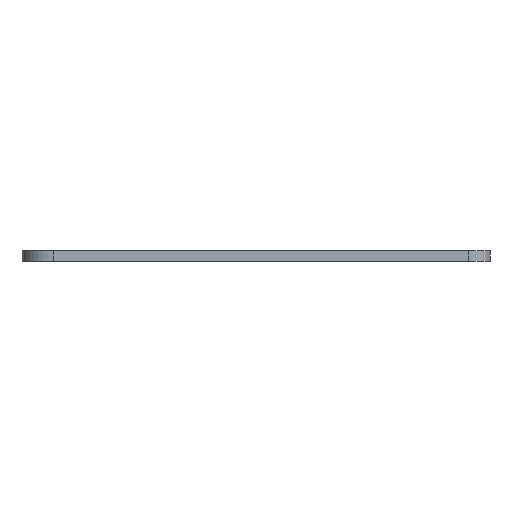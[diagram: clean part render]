
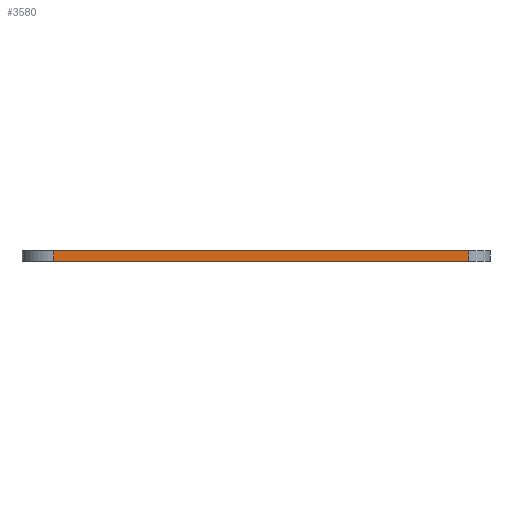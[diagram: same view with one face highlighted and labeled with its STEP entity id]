
A CAD part, front view. The second image highlights one B-rep face of the part: STEP entity #3580.
In plain terms, the highlighted planar face has unit normal (0, -1, 0).
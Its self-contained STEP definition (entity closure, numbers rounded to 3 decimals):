
#3515=CARTESIAN_POINT('',(103.425,-19.065,2.0));
#3516=VERTEX_POINT('',#3515);
#3524=CARTESIAN_POINT('',(103.425,-19.065,0.0));
#3525=VERTEX_POINT('',#3524);
#3526=CARTESIAN_POINT('',(103.425,-19.065,2.0));
#3527=DIRECTION('',(0.0,0.0,-1.0));
#3528=VECTOR('',#3527,2.0);
#3529=LINE('',#3526,#3528);
#3530=EDGE_CURVE('',#3516,#3525,#3529,.T.);
#3550=CARTESIAN_POINT('',(107.425,-19.065,0.0));
#3551=DIRECTION('',(0.0,-1.0,0.0));
#3552=DIRECTION('',(0.0,0.0,-1.0));
#3553=AXIS2_PLACEMENT_3D('',#3550,#3551,#3552);
#3554=PLANE('',#3553);
#3555=ORIENTED_EDGE('',*,*,#3530,.F.);
#3556=CARTESIAN_POINT('',(25.55,-19.065,2.0));
#3557=VERTEX_POINT('',#3556);
#3558=CARTESIAN_POINT('',(103.425,-19.065,2.0));
#3559=DIRECTION('',(-1.0,0.0,0.0));
#3560=VECTOR('',#3559,77.875);
#3561=LINE('',#3558,#3560);
#3562=EDGE_CURVE('',#3516,#3557,#3561,.T.);
#3563=ORIENTED_EDGE('',*,*,#3562,.T.);
#3564=CARTESIAN_POINT('',(25.55,-19.065,0.0));
#3565=VERTEX_POINT('',#3564);
#3566=CARTESIAN_POINT('',(25.55,-19.065,2.0));
#3567=DIRECTION('',(0.0,0.0,-1.0));
#3568=VECTOR('',#3567,2.0);
#3569=LINE('',#3566,#3568);
#3570=EDGE_CURVE('',#3557,#3565,#3569,.T.);
#3571=ORIENTED_EDGE('',*,*,#3570,.T.);
#3572=CARTESIAN_POINT('',(103.425,-19.065,0.0));
#3573=DIRECTION('',(-1.0,0.0,0.0));
#3574=VECTOR('',#3573,77.875);
#3575=LINE('',#3572,#3574);
#3576=EDGE_CURVE('',#3525,#3565,#3575,.T.);
#3577=ORIENTED_EDGE('',*,*,#3576,.F.);
#3578=EDGE_LOOP('',(#3555,#3563,#3571,#3577));
#3579=FACE_OUTER_BOUND('',#3578,.T.);
#3580=ADVANCED_FACE('',(#3579),#3554,.T.);
